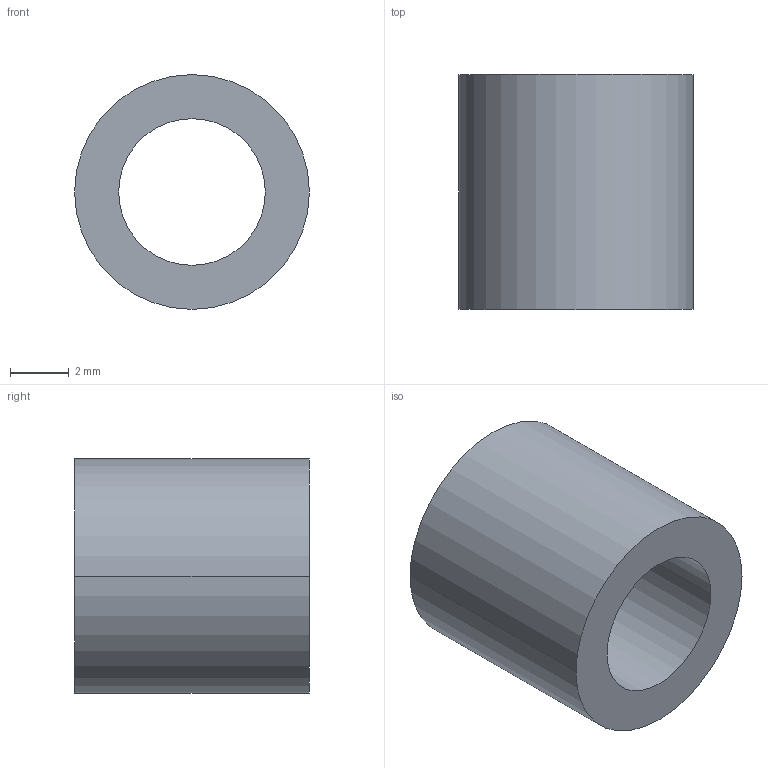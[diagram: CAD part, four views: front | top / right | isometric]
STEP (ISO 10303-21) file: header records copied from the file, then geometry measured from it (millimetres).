
FILE_DESCRIPTION (( 'STEP AP203' ), '1' );
FILE_NAME ('30800.WPP8B5.0.step', '2019-01-23T22:22:11', ( '' ), ( '' ), 'SwSTEP 2.0', 'SolidWorks 2017', '' );
FILE_SCHEMA (( 'CONFIG_CONTROL_DESIGN' ));
Length unit declared in the file: millimetre
Products named in the file (1): 30800.WPP8B5.0
Bounding box: 8 x 8 x 8 mm (x, y, z)
Volume: 241.4 mm3; surface area: 381.7 mm2
Topology: 1 solids, 1 shells, 8 faces, 16 edges, 10 vertices
Faces by surface type: cylinder 4, torus 2, plane 2
Entity records: 297 total; most frequent: DIRECTION 46, CARTESIAN_POINT 35, ORIENTED_EDGE 32, AXIS2_PLACEMENT_3D 21, EDGE_CURVE 16, CIRCLE 12, EDGE_LOOP 10, VERTEX_POINT 10
